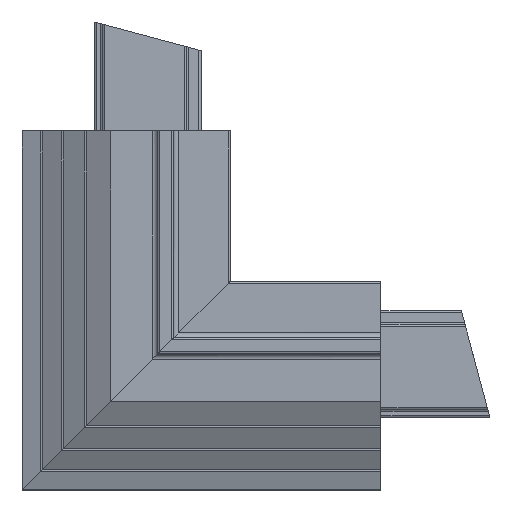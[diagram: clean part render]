
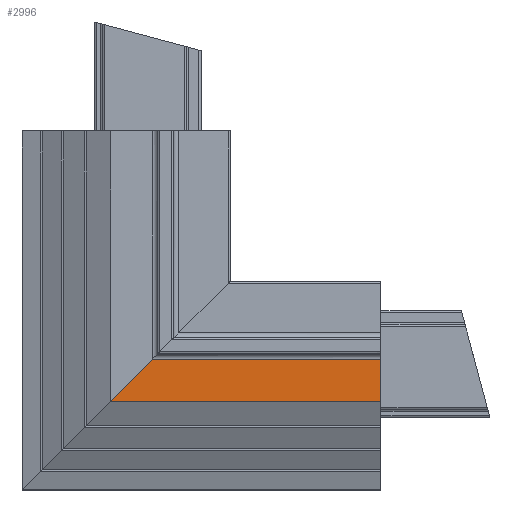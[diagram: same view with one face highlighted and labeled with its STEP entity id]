
A CAD part, top view. The second image highlights one B-rep face of the part: STEP entity #2996.
In plain terms, the highlighted planar face has unit normal (0, 0, 1).
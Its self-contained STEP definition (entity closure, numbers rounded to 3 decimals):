
#61=DIRECTION('',(0.,-1.,0.));
#62=VECTOR('',#61,4.2);
#63=CARTESIAN_POINT('',(50.,13.,7.25));
#64=LINE('',#63,#62);
#609=DIRECTION('',(0.707,0.707,0.));
#610=VECTOR('',#609,5.94);
#611=CARTESIAN_POINT('',(23.1,8.8,7.25));
#612=LINE('',#611,#610);
#613=DIRECTION('',(1.,0.,0.));
#614=VECTOR('',#613,22.7);
#615=CARTESIAN_POINT('',(27.3,13.,7.25));
#616=LINE('',#615,#614);
#617=DIRECTION('',(1.,0.,0.));
#618=VECTOR('',#617,26.9);
#619=CARTESIAN_POINT('',(23.1,8.8,7.25));
#620=LINE('',#619,#618);
#2381=CARTESIAN_POINT('',(50.,8.8,7.25));
#2382=VERTEX_POINT('',#2381);
#2405=CARTESIAN_POINT('',(50.,13.,7.25));
#2406=VERTEX_POINT('',#2405);
#2419=CARTESIAN_POINT('',(23.1,8.8,7.25));
#2420=CARTESIAN_POINT('',(27.3,13.,7.25));
#2421=VERTEX_POINT('',#2419);
#2422=VERTEX_POINT('',#2420);
#2982=CARTESIAN_POINT('',(-50.,20.7,7.25));
#2983=DIRECTION('',(0.,0.,1.));
#2984=DIRECTION('',(0.,-1.,0.));
#2985=AXIS2_PLACEMENT_3D('',#2982,#2983,#2984);
#2986=PLANE('',#2985);
#2988=ORIENTED_EDGE('',*,*,#2987,.T.);
#2990=ORIENTED_EDGE('',*,*,#2989,.T.);
#2991=ORIENTED_EDGE('',*,*,#2671,.T.);
#2993=ORIENTED_EDGE('',*,*,#2992,.F.);
#2994=EDGE_LOOP('',(#2988,#2990,#2991,#2993));
#2995=FACE_OUTER_BOUND('',#2994,.F.);
#2996=ADVANCED_FACE('',(#2995),#2986,.T.);
#2671=EDGE_CURVE('',#2406,#2382,#64,.T.);
#2987=EDGE_CURVE('',#2421,#2422,#612,.T.);
#2989=EDGE_CURVE('',#2422,#2406,#616,.T.);
#2992=EDGE_CURVE('',#2421,#2382,#620,.T.);
